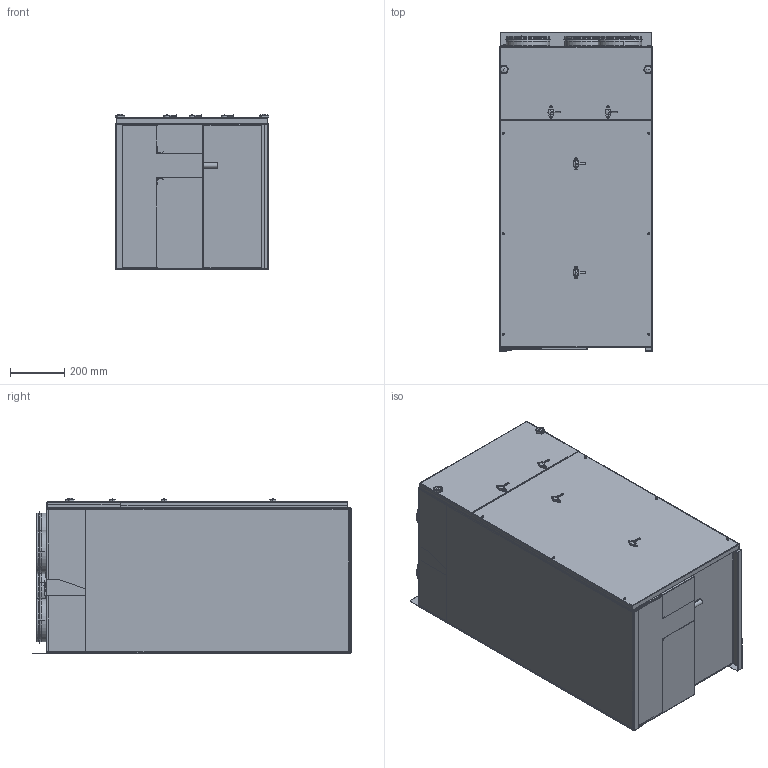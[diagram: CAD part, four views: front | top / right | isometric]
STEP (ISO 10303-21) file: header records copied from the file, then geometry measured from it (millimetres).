
FILE_DESCRIPTION (( 'STEP AP214' ), '1' );
FILE_NAME ('CT252-302_Venstre_CTS602.STEP', '2018-03-12T10:12:48', ( '' ), ( '' ), 'SwSTEP 2.0', 'SolidWorks 2017', '' );
FILE_SCHEMA (( 'AUTOMOTIVE_DESIGN' ));
Length unit declared in the file: millimetre
Products named in the file (88): CT252-302_Forplade_Toplaag; CT252-302_ophaeng; Luftmålestuds_type_DUMBO; Nilan_Pladeskrue_4,2x9,5mm_torx; RJ-45_CAT5 SOCKET; CT252-302_V_Sideplade_Hoejre; CT252-302_Bagplade; 11244_16-024-003-05_A CT252-302 venstre_Standard; 160mm_rørstuds; Skive_for_Bolt_M6x40_med_bøjle; Luftmålestuds_type_DUMBO_Kort model; Popnitte; Popnitte_Popnitte 3,2 x 6; Fingerskrue_sekskant_M6x40; USB-A; CT252-302_Top_Daekplade_CTS602_projekt_CTS 602 projektmodel; CT252-302_V_Bundbeklaedning; Power Entry Module_Power Entry Module; PG11_gummimembran; Pladeskrue PH 4,2x38 spids Torx Panhoved ISO 14585; CT252-302_V_Toplaag; Nilvnr__CT252_302_HoejreTilVenstre_EPS_Standard; 11242_16-024-003-03_A CT252-302 venstre; 11243_16-024-003-04_A CT252-302 venstre_Standard; 11241_16-024-003-02_A CT252-302 venstre_Standard; 11240_16-024-003-01_A CT252-302 venstre_Standard; 11244_16-024-003-05_A CT252-302 venstre; Ø160_dækplade_for_tegninger_Nr. 1; 2734_108_031_000; 11242_16-024-003-03_A CT252-302 venstre_Standard; PVC_115mm_ﾘ20; Ø160_dækplade_for_tegninger; CT252-302_Forplade_Bundlaag; 11243_16-024-003-04_A CT252-302 venstre; Ø160_dækplade_for_tegninger_Nr. 3; Ø160_dækplade_for_tegninger_Nr. 4; Power Entry Module; CT252-302_Venstre_CTS602; 11240_16-024-003-01_A CT252-302 venstre; CT252-302_V_Sideplade_venstre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
Assembly tree (56 placements, depth 3):
  Luftmålestuds_type_DUMBO
  Nilan_Pladeskrue_4,2x9,5mm_torx
  CT252-302_Bagplade
  160mm_rørstuds
  Skive_for_Bolt_M6x40_med_bøjle
Bounding box: 563.66 x 1169.35 x 570.11 mm (x, y, z)
Volume: 103691244.5 mm3; surface area: 14587409.5 mm2
Topology: 55 solids, 59 shells, 6244 faces, 16073 edges, 10106 vertices
Faces by surface type: plane 2727, cylinder 1912, torus 657, bspline 591, cone 266, sphere 91
Entity records: 215016 total; most frequent: CARTESIAN_POINT 77714, ORIENTED_EDGE 26826, DIRECTION 24134, EDGE_CURVE 13413, VERTEX_POINT 8556, AXIS2_PLACEMENT_3D 8230, VECTOR 7674, LINE 7674
